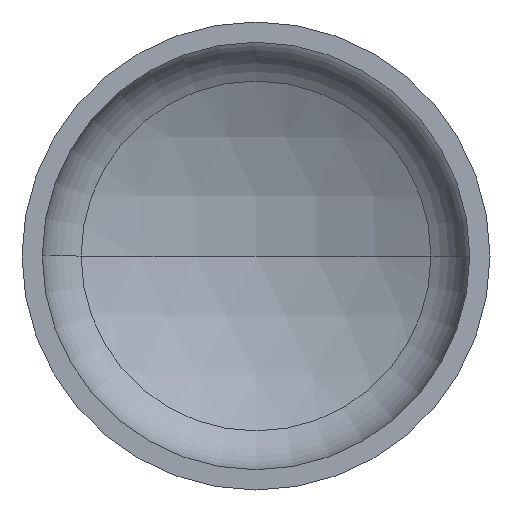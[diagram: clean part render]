
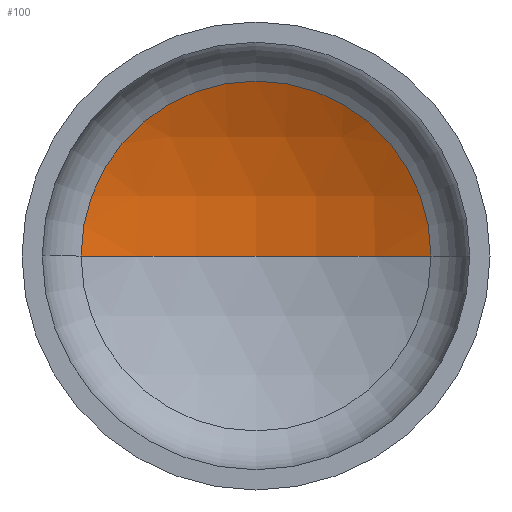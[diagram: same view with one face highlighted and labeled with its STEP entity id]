
A CAD part, front view. The second image highlights one B-rep face of the part: STEP entity #100.
In plain terms, the highlighted spherical face has radius 720 mm.
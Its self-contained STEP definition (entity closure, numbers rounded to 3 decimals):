
#6 = AXIS2_PLACEMENT_3D ( 'NONE', #359, #214, #385 ) ;
#8 = AXIS2_PLACEMENT_3D ( 'NONE', #237, #320, #91 ) ;
#17 = EDGE_LOOP ( 'NONE', ( #144, #380, #233 ) ) ;
#31 = AXIS2_PLACEMENT_3D ( 'NONE', #140, #187, #351 ) ;
#32 = AXIS2_PLACEMENT_3D ( 'NONE', #400, #222, #264 ) ;
#37 = CARTESIAN_POINT ( 'NONE',  ( 336.414, 243.778, 0. ) ) ;
#69 = VERTEX_POINT ( 'NONE', #307 ) ;
#91 = DIRECTION ( 'NONE',  ( -1., 0., 0. ) ) ;
#100 = ADVANCED_FACE ( 'NONE', ( #273 ), #331, .F. ) ;
#110 = EDGE_CURVE ( 'NONE', #118, #69, #206, .T. ) ;
#117 = VERTEX_POINT ( 'NONE', #205 ) ;
#118 = VERTEX_POINT ( 'NONE', #37 ) ;
#140 = CARTESIAN_POINT ( 'NONE',  ( 0., 243.778, 0. ) ) ;
#144 = ORIENTED_EDGE ( 'NONE', *, *, #357, .F. ) ;
#187 = DIRECTION ( 'NONE',  ( 0., -1., 0. ) ) ;
#205 = CARTESIAN_POINT ( 'NONE',  ( 0., 327.205, 0. ) ) ;
#206 = CIRCLE ( 'NONE', #31, 336.414 ) ;
#214 = DIRECTION ( 'NONE',  ( 0., 0., 1. ) ) ;
#222 = DIRECTION ( 'NONE',  ( 0., 0., -1. ) ) ;
#233 = ORIENTED_EDGE ( 'NONE', *, *, #110, .T. ) ;
#237 = CARTESIAN_POINT ( 'NONE',  ( 0., -392.795, 0. ) ) ;
#264 = DIRECTION ( 'NONE',  ( -1., 0., 0. ) ) ;
#273 = FACE_OUTER_BOUND ( 'NONE', #17, .T. ) ;
#293 = CIRCLE ( 'NONE', #8, 720. ) ;
#307 = CARTESIAN_POINT ( 'NONE',  ( -336.414, 243.778, 0. ) ) ;
#320 = DIRECTION ( 'NONE',  ( 0., 0., -1. ) ) ;
#331 = SPHERICAL_SURFACE ( 'NONE', #32, 720. ) ;
#344 = EDGE_CURVE ( 'NONE', #117, #118, #293, .T. ) ;
#351 = DIRECTION ( 'NONE',  ( 1., 0., 0. ) ) ;
#353 = CIRCLE ( 'NONE', #6, 720. ) ;
#357 = EDGE_CURVE ( 'NONE', #117, #69, #353, .T. ) ;
#359 = CARTESIAN_POINT ( 'NONE',  ( 0., -392.795, 0. ) ) ;
#380 = ORIENTED_EDGE ( 'NONE', *, *, #344, .T. ) ;
#385 = DIRECTION ( 'NONE',  ( 1., 0., 0. ) ) ;
#400 = CARTESIAN_POINT ( 'NONE',  ( 0., -392.795, 0. ) ) ;
